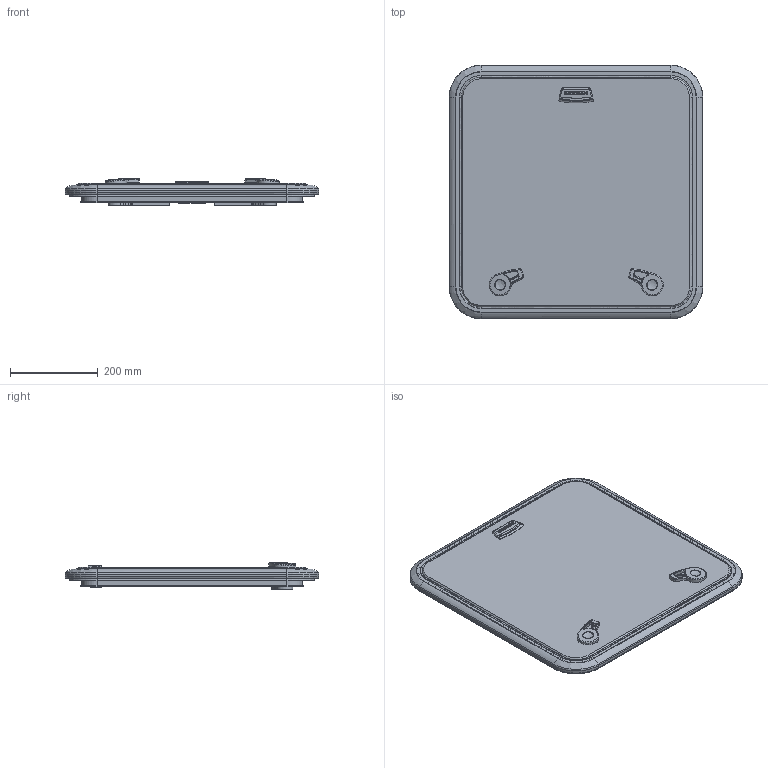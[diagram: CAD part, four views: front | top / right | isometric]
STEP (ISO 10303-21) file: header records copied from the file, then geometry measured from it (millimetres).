
FILE_DESCRIPTION((''),'2;1');
FILE_NAME('LEWMAR-HATCH-LOWPRO-60_ASM','2008-02-05T',('skennedy'),(''),'PRO/ENGINEER BY PARAMETRIC TECHNOLOGY CORPORATION, 2007030','PRO/ENGINEER BY PARAMETRIC TECHNOLOGY CORPORATION, 2007030','');
FILE_SCHEMA(('CONFIG_CONTROL_DESIGN'));
Length unit declared in the file: millimetre
Products named in the file (6): FRAME_60; 3596053X; HINGE_LEVER_LP; HANDLE_LP_RHS; HANDLE_LP_LHS; LEWMAR-HATCH-LOWPRO-60_ASM
Assembly tree (5 placements, depth 2):
  LEWMAR-HATCH-LOWPRO-60_ASM
    FRAME_60
    3596053X
    HINGE_LEVER_LP
    HANDLE_LP_RHS
    HANDLE_LP_LHS
Bounding box: 577 x 577 x 61.17 mm (x, y, z)
Volume: 3187912.2 mm3; surface area: 1055586.6 mm2
Topology: 4 solids, 5 shells, 891 faces, 2228 edges, 1364 vertices
Faces by surface type: bspline 346, plane 297, cylinder 135, cone 41, torus 35, extrusion 23, sphere 14
Entity records: 38350 total; most frequent: CARTESIAN_POINT 19351, ORIENTED_EDGE 4432, DIRECTION 3011, EDGE_CURVE 2216, VERTEX_POINT 1364, AXIS2_PLACEMENT_3D 1053, EDGE_LOOP 950, VECTOR 905
